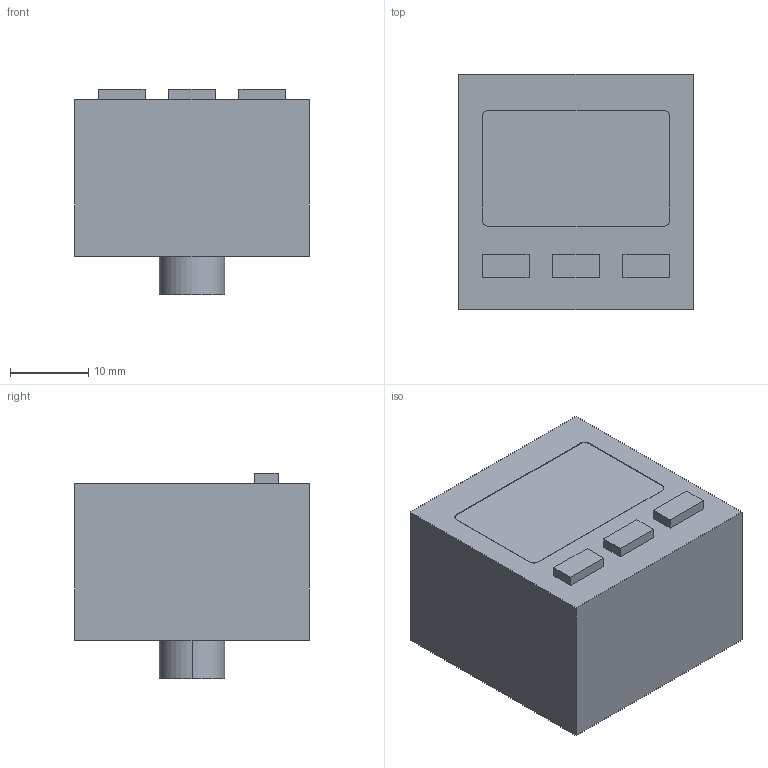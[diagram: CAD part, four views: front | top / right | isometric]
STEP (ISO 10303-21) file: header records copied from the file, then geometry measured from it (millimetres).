
FILE_DESCRIPTION (( 'STEP AP203' ), '1' );
FILE_NAME ('dp-001z.STEP', '2015-04-22T07:53:01', ( '' ), ( '' ), 'SwSTEP 2.0', 'SolidWorks 2010', '' );
FILE_SCHEMA (( 'CONFIG_CONTROL_DESIGN' ));
Length unit declared in the file: millimetre
Products named in the file (1): dp-001z
Bounding box: 30 x 30 x 26.2 mm (x, y, z)
Volume: 17335.1 mm3; surface area: 4996.3 mm2
Topology: 1 solids, 1 shells, 58 faces, 138 edges, 92 vertices
Faces by surface type: plane 42, cylinder 16
Entity records: 1751 total; most frequent: CARTESIAN_POINT 289, DIRECTION 288, ORIENTED_EDGE 276, EDGE_CURVE 138, LINE 106, VECTOR 106, VERTEX_POINT 92, AXIS2_PLACEMENT_3D 91
